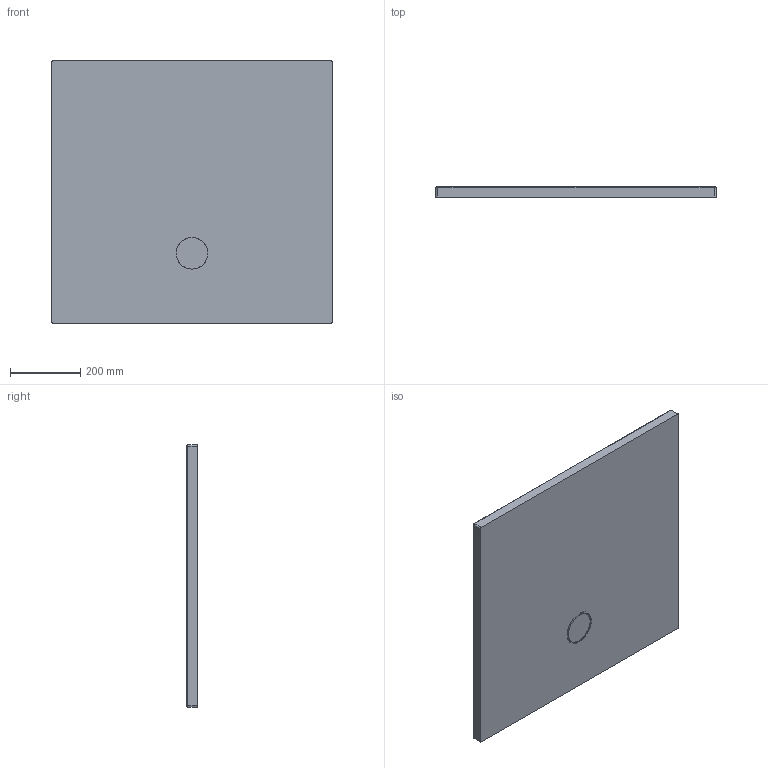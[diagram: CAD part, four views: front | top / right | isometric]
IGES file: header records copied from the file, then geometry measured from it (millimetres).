
Start section: SolidWorks IGES file using analytic representation for surfaces
Global section: file name: Y:\TKT\_PLIKI DLA ARCHITEKTÓW\02_AKRYL\BRODZIKI\seria SPACE MINERAL\IGS\B_M_75x80x1,5.IGS; native system: SolidWorks 2011; preprocessor: SolidWorks 2011; author: M.Szymanski; date: 180215.134019; units: millimetre
Bounding box: 800 x 30 x 750 mm (x, y, z)
Surface area: 1305606.7 mm2 (no closed solid volume)
Topology: 0 solids, 0 shells, 61 faces, 737 edges, 734 vertices
Faces by surface type: bspline 39, revolution 22
